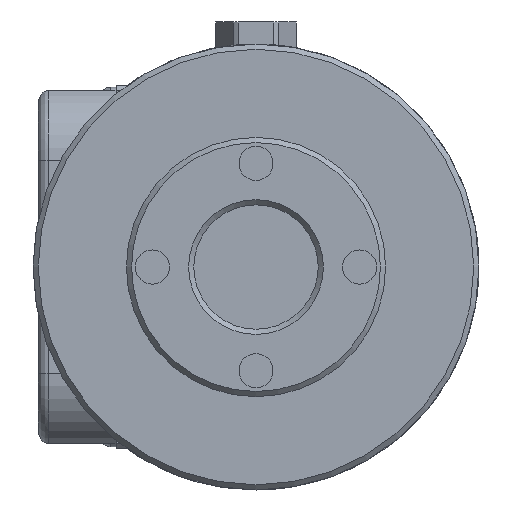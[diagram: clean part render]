
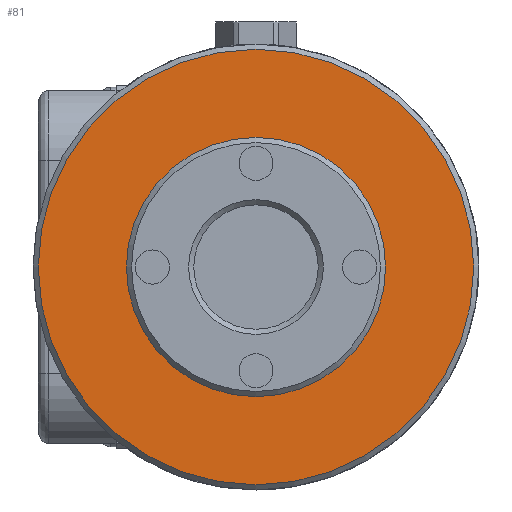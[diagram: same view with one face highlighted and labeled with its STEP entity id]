
A CAD part, front view. The second image highlights one B-rep face of the part: STEP entity #81.
In plain terms, the highlighted planar face has unit normal (0, -1, 0).
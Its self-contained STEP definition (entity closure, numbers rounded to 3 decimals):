
#81=ADVANCED_FACE('',(#283,#284),#285,.T.);
#283=FACE_OUTER_BOUND('',#848,.T.);
#284=FACE_BOUND('',#849,.T.);
#285=PLANE('',#850);
#848=EDGE_LOOP('',(#2130));
#849=EDGE_LOOP('',(#2131));
#850=AXIS2_PLACEMENT_3D('',#2132,#2133,#2134);
#2130=ORIENTED_EDGE('',*,*,#3422,.T.);
#2131=ORIENTED_EDGE('',*,*,#3423,.F.);
#2132=CARTESIAN_POINT('',(0.0,-6.,-12.5));
#2133=DIRECTION('',(0.0,-1.0,0.0));
#2134=DIRECTION('',(0.0,0.0,-1.0));
#3422=EDGE_CURVE('',#3825,#3825,#3826,.T.);
#3423=EDGE_CURVE('',#3827,#3827,#3828,.T.);
#3825=VERTEX_POINT('',#4676);
#3826=CIRCLE('',#4677,21.);
#3827=VERTEX_POINT('',#4678);
#3828=CIRCLE('',#4679,12.5);
#4676=CARTESIAN_POINT('',(0.0,-6.,-21.));
#4677=AXIS2_PLACEMENT_3D('',#5686,#5687,#5688);
#4678=CARTESIAN_POINT('',(0.0,-6.,-12.5));
#4679=AXIS2_PLACEMENT_3D('',#5689,#5690,#5691);
#5686=CARTESIAN_POINT('',(0.0,-6.,0.0));
#5687=DIRECTION('',(0.0,-1.0,0.0));
#5688=DIRECTION('',(0.0,0.0,-1.0));
#5689=CARTESIAN_POINT('',(0.0,-6.,0.0));
#5690=DIRECTION('',(0.0,-1.0,0.0));
#5691=DIRECTION('',(0.0,0.0,-1.0));
